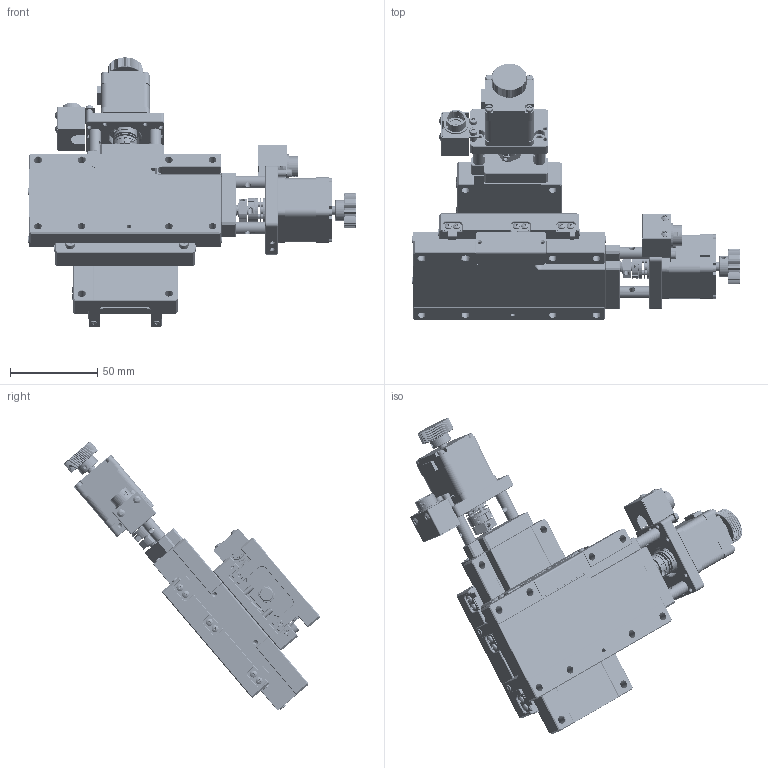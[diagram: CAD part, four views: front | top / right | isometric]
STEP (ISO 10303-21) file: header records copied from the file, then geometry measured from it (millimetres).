
FILE_DESCRIPTION (( 'STEP AP214' ), '1' );
FILE_NAME ('TYS6050B-L1-M28L.STEP', '2025-01-03T09:09:04', ( '' ), ( '' ), 'SwSTEP 2.0', 'SolidWorks 2020', '' );
FILE_SCHEMA (( 'AUTOMOTIVE_DESIGN' ));
Length unit declared in the file: millimetre
Products named in the file (2): TXS6050B-L1-M28L; TYS6050B-L1-M28L
Assembly tree (2 placements, depth 2):
  TYS6050B-L1-M28L
    TXS6050B-L1-M28L  x2
Bounding box: 187.9 x 146.64 x 154.08 mm (x, y, z)
Volume: 296947.6 mm3; surface area: 134448.6 mm2
Topology: 70 solids, 88 shells, 5842 faces, 15106 edges, 9484 vertices
Faces by surface type: plane 2784, cylinder 1836, cone 906, bspline 252, torus 52, sphere 12
Entity records: 155053 total; most frequent: CARTESIAN_POINT 54400, ORIENTED_EDGE 14882, DIRECTION 13355, EDGE_CURVE 7441, AXIS2_PLACEMENT_3D 4789, VERTEX_POINT 4736, LINE 3777, VECTOR 3777
